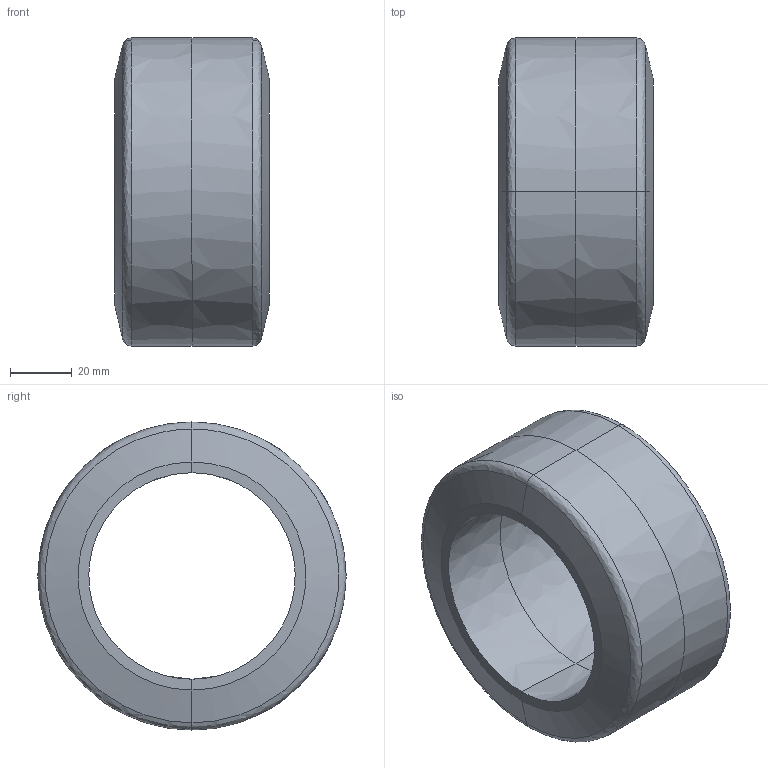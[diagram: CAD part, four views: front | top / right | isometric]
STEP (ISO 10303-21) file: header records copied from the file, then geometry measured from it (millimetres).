
FILE_DESCRIPTION (( 'STEP AP214' ), '1' );
FILE_NAME ('HP-100WJ-18.STEP', '2020-07-04T08:00:51', ( '' ), ( '' ), 'SwSTEP 2.0', 'SolidWorks 2010', '' );
FILE_SCHEMA (( 'AUTOMOTIVE_DESIGN' ));
Length unit declared in the file: millimetre
Products named in the file (1): HP-100WJ-18
Bounding box: 50 x 100 x 100 mm (x, y, z)
Volume: 197215 mm3; surface area: 32937.7 mm2
Topology: 1 solids, 1 shells, 20 faces, 40 edges, 20 vertices
Faces by surface type: bspline 20
Entity records: 2766 total; most frequent: CARTESIAN_POINT 2433, ORIENTED_EDGE 80, EDGE_CURVE 40, B_SPLINE_CURVE_WITH_KNOTS 24, ADVANCED_FACE 20, VERTEX_POINT 20, B_SPLINE_SURFACE_WITH_KNOTS 20, EDGE_LOOP 20
